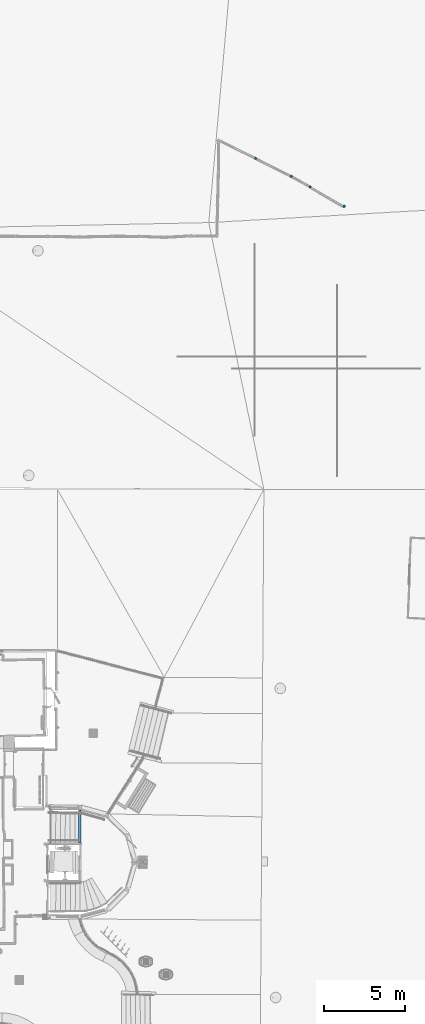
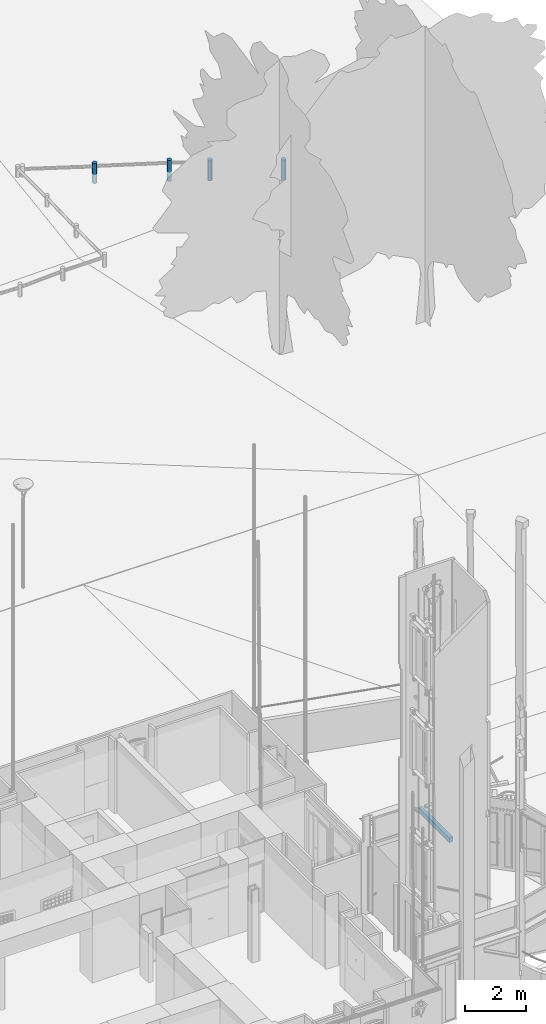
# One storey, part 3 of 133: 4 columns, 1 beam.
"""IFC2X3 building model written with IfcOpenShell, lengths in centimetres."""

from ifc_helpers import new_model, entity, si_unit, converted_unit, direction, frame, origin, origin_with_axes, origin_2d_with_axis, place, context, subcontext, project, spatial, rectangle, circle, extrude, source, transform, mapped, material, type_object, element, save


model = new_model("IFC2X3")

# Units and contexts
model_context = context("Model", 3, precision=0.0001, world=origin(), true_north=direction((0.225632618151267, 0.974212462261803, 0.0)))
body_context = subcontext(model_context, "Body", "Model", "MODEL_VIEW")
ifc_project = project(units=[si_unit("LENGTHUNIT", "METRE", prefix="CENTI"), si_unit("AREAUNIT", "SQUARE_METRE", prefix="CENTI"), si_unit("VOLUMEUNIT", "CUBIC_METRE", prefix="CENTI"), converted_unit("PLANEANGLEUNIT", "DEGREE", entity("IfcRatioMeasure", 0.0174532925), si_unit("PLANEANGLEUNIT", "RADIAN"), dimensions=[0, 0, 0, 0, 0, 0, 0])], contexts=[model_context])

# Site, building, storey
site_placement = place(None, origin_with_axes())
site = spatial("IfcSite", under=ifc_project, at=site_placement, Name="Default Site", CompositionType="ELEMENT")
building_placement = place(site_placement, origin_with_axes())
building = spatial("IfcBuilding", under=site, at=building_placement, Name="Default Building", CompositionType="ELEMENT")
storey_placement = place(building_placement, frame((0.0, 0.0, -291.400371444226), z_axis=(0.0, 0.0, 1.0), x_axis=(1.0, 0.0, 0.0)))
storey = spatial("IfcBuildingStorey", under=building, at=storey_placement, Name="Rez-de-Jardin", CompositionType="ELEMENT", Elevation=-291.400371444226)

# Columns
ifc_material_1 = material(Name="Chêne rouvre 02")
column_type = type_object("IfcColumnType", Name="Ø160", PredefinedType="USERDEFINED", material=ifc_material_1)
shared_shape_1 = source(origin_with_axes(), body_context, "Body", "SweptSolid", [
    extrude(circle(Radius=8.0, at=origin_2d_with_axis()), origin_with_axes(), (0.0, 0.0, 1.0), 100.0),
])
column_1_placement = place(storey_placement, frame((2723.64800875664, 3627.62327855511, 60.0000008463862), z_axis=(0.0, 0.0, 1.0), x_axis=(1.0, 0.0, 0.0)))
element("IfcColumn", 1, at=column_1_placement, inside=storey, type_object=column_type, material=ifc_material_1, Name="Poteau 1703071", ObjectType="column", context=body_context, shape_type="MappedRepresentation", body=[
    mapped(shared_shape_1, transform((-3.5527136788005e-13, 0.0, 0.0), x_axis=(1.0, 0.0, 0.0), y_axis=(0.0, 1.0, 0.0), z_axis=(0.0, 0.0, 1.0), scale=1.0, scale2=1.0, scale3=0.844003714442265, uniform=False)),
])
column_2_placement = place(storey_placement, frame((2934.36889308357, 3507.59868814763, 60.0000008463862), z_axis=(0.0, 0.0, 1.0), x_axis=(1.0, 0.0, 0.0)))
element("IfcColumn", 2, at=column_2_placement, inside=storey, type_object=column_type, material=ifc_material_1, Name="Poteau 1703077", ObjectType="column", context=body_context, shape_type="MappedRepresentation", body=[
    mapped(shared_shape_1, transform((0.0, 0.0, 0.0), x_axis=(1.0, 0.0, 0.0), y_axis=(0.0, 1.0, 0.0), z_axis=(0.0, 0.0, 1.0), scale=1.0, scale2=1.0, scale3=0.844003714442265, uniform=False)),
])
column_3_placement = place(storey_placement, frame((2386.68865624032, 3803.7430284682, 60.0), z_axis=(0.0, 0.0, 1.0), x_axis=(1.0, 0.0, 0.0)))
element("IfcColumn", 3, at=column_3_placement, inside=storey, type_object=column_type, material=ifc_material_1, Name="Poteau 1703012", ObjectType="column", context=body_context, shape_type="MappedRepresentation", body=[
    mapped(shared_shape_1, transform((0.0, 0.0, 4.44089209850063e-14), x_axis=(1.0, 0.0, 0.0), y_axis=(0.0, 1.0, 0.0), z_axis=(0.0, 0.0, 1.0), scale=1.0, scale2=1.0, scale3=0.814003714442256, uniform=False)),
])
column_4_placement = place(storey_placement, frame((2606.75028351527, 3692.63685615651, 59.9999999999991), z_axis=(0.0, 0.0, 1.0), x_axis=(1.0, 0.0, 0.0)))
element("IfcColumn", 4, at=column_4_placement, inside=storey, type_object=column_type, material=ifc_material_1, Name="Poteau 1703015", ObjectType="column", context=body_context, shape_type="MappedRepresentation", body=[
    mapped(shared_shape_1, transform((-3.5527136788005e-13, 0.0, 0.0), x_axis=(1.0, 0.0, 0.0), y_axis=(0.0, 1.0, 0.0), z_axis=(0.0, 0.0, 1.0), scale=1.0, scale2=1.0, scale3=0.844003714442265, uniform=False)),
])

# Beam
ifc_material_2 = material(Name="Béton (01)")
beam_type = type_object("IfcBeamType", Name="140x200", PredefinedType="NOTDEFINED", material=ifc_material_2)
shared_shape_2 = source(origin_with_axes(), body_context, "Body", "SweptSolid", [
    extrude(rectangle(XDim=14.0, YDim=20.0, at=origin_2d_with_axis()), origin_with_axes(), (0.0, 0.0, 1.0), 100.0),
])
beam_placement = place(storey_placement, frame((1293.0176590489, -428.051134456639, 373.400371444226), z_axis=(0.00346854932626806, -0.999993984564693, 0.0), x_axis=(0.999993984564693, 0.00346854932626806, 0.0)))
element("IfcBeam", 5, at=beam_placement, inside=storey, type_object=beam_type, material=ifc_material_2, Name="Poutre 574864", ObjectType="beam", context=body_context, shape_type="MappedRepresentation", body=[
    mapped(shared_shape_2, transform((6.99999999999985, -9.99999999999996, 0.0), x_axis=(1.0, 0.0, 0.0), y_axis=(0.0, 1.0, 0.0), z_axis=(0.0, 0.0, -1.0), scale=1.0, scale2=1.0, scale3=2.03635922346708, uniform=False)),
])

save(model, "model.ifc")
